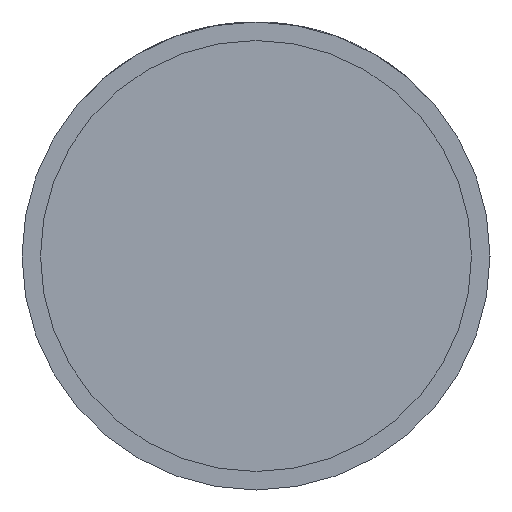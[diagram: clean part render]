
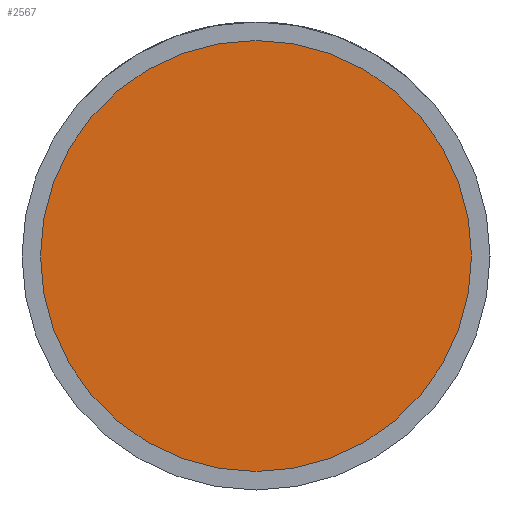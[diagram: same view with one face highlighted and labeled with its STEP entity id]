
A CAD part, front view. The second image highlights one B-rep face of the part: STEP entity #2567.
In plain terms, the highlighted planar face has unit normal (0, -1, 0).
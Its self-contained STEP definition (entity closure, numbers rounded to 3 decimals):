
#23 = EDGE_LOOP ( 'NONE', ( #1378, #560 ) ) ;
#172 = DIRECTION ( 'NONE',  ( 1., 0., 0. ) ) ;
#302 = CARTESIAN_POINT ( 'NONE',  ( 0., -17., 0. ) ) ;
#560 = ORIENTED_EDGE ( 'NONE', *, *, #2241, .T. ) ;
#570 = DIRECTION ( 'NONE',  ( 1., 0., 0. ) ) ;
#756 = VERTEX_POINT ( 'NONE', #3442 ) ;
#920 = CARTESIAN_POINT ( 'NONE',  ( 0., -17., 0. ) ) ;
#1174 = AXIS2_PLACEMENT_3D ( 'NONE', #2774, #2377, #172 ) ;
#1378 = ORIENTED_EDGE ( 'NONE', *, *, #2485, .T. ) ;
#1676 = CIRCLE ( 'NONE', #4074, 17.5 ) ;
#2058 = VERTEX_POINT ( 'NONE', #4066 ) ;
#2241 = EDGE_CURVE ( 'NONE', #756, #2058, #2634, .T. ) ;
#2377 = DIRECTION ( 'NONE',  ( 0., -1., 0. ) ) ;
#2415 = FACE_OUTER_BOUND ( 'NONE', #23, .T. ) ;
#2485 = EDGE_CURVE ( 'NONE', #2058, #756, #1676, .T. ) ;
#2567 = ADVANCED_FACE ( 'NONE', ( #2415 ), #3032, .T. ) ;
#2634 = CIRCLE ( 'NONE', #2980, 17.5 ) ;
#2774 = CARTESIAN_POINT ( 'NONE',  ( 17.5, -17., 0. ) ) ;
#2896 = DIRECTION ( 'NONE',  ( 1., 0., 0. ) ) ;
#2980 = AXIS2_PLACEMENT_3D ( 'NONE', #920, #4191, #2896 ) ;
#3032 = PLANE ( 'NONE',  #1174 ) ;
#3442 = CARTESIAN_POINT ( 'NONE',  ( -17.5, -17., 0. ) ) ;
#4066 = CARTESIAN_POINT ( 'NONE',  ( 17.5, -17., 0. ) ) ;
#4074 = AXIS2_PLACEMENT_3D ( 'NONE', #302, #4206, #570 ) ;
#4191 = DIRECTION ( 'NONE',  ( 0., -1., 0. ) ) ;
#4206 = DIRECTION ( 'NONE',  ( 0., -1., 0. ) ) ;
